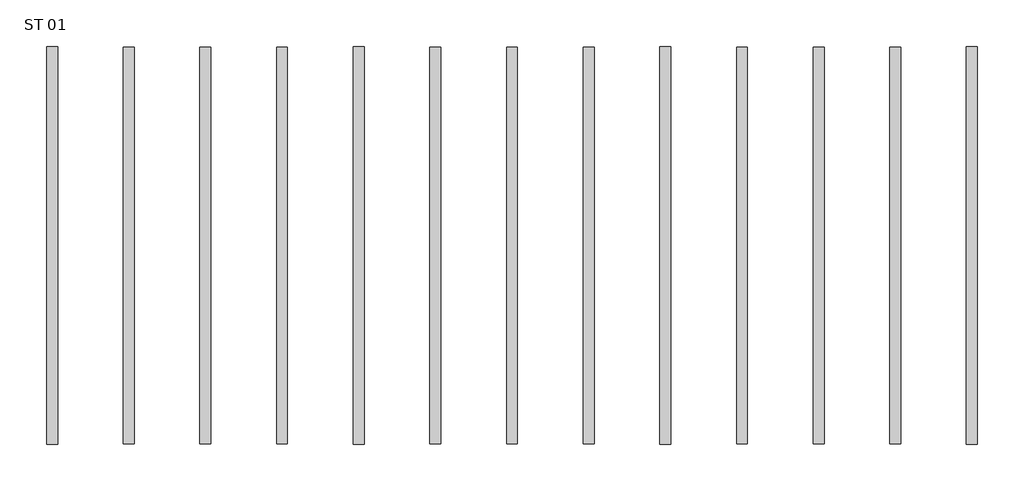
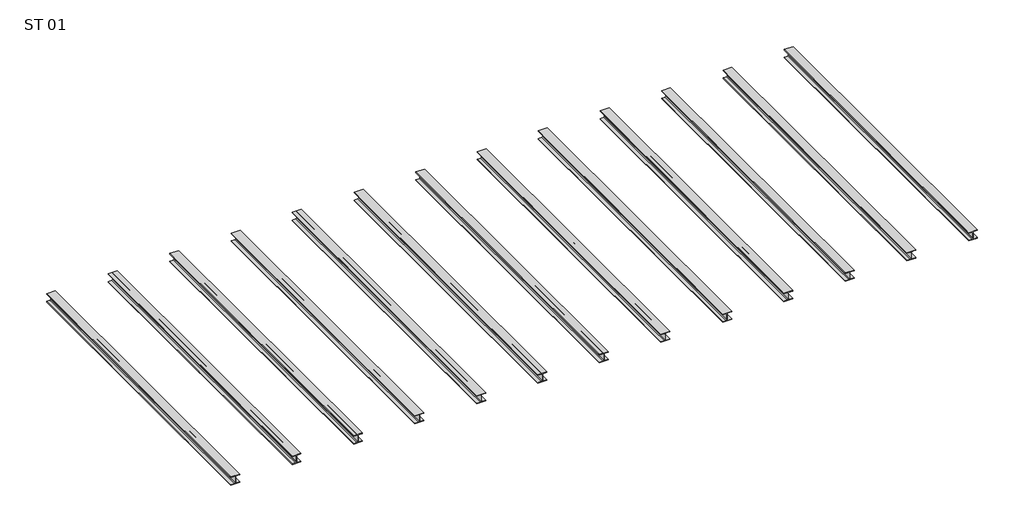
# One storey: 13 beams.
"""IFC4 building model written with IfcOpenShell, lengths in millimetres."""

from ifc_helpers import new_model, si_unit, origin, place, context, project, spatial, transform, mapped, element, save
from components import viga_heb_he240b_13f2b1aa, viga_heb_he240b_6fe5635d

model = new_model("IFC4")

# Units and contexts
model_context = context("Model", 3, world=origin())
ifc_project = project(units=[si_unit("LENGTHUNIT", "METRE", prefix="MILLI")], contexts=[model_context])

# Site, building, storey
site = spatial("IfcSite", under=ifc_project)
building = spatial("IfcBuilding", under=site)
storey = spatial("IfcBuildingStorey", under=building, Name="ST 01", Elevation=1355.0)

# Beams
placement = place(None, origin())
viga_heb_he240b_shape = viga_heb_he240b_13f2b1aa(model_context)
element("IfcBeam", 1, ObjectType="Viga HEB : HE240B", at=placement, inside=storey, context=model_context, shape_type="MappedRepresentation", body=[
    mapped(viga_heb_he240b_shape, transform((12614.134717, 877.1901934, 1235.0), x_axis=(0.0, -1.0, 0.0), y_axis=(1.0, 0.0, 0.0), z_axis=(0.0, 0.0, 1.0))),
])
element("IfcBeam", 2, ObjectType="Viga HEB : HE240B", at=placement, inside=storey, context=model_context, shape_type="MappedRepresentation", body=[
    mapped(viga_heb_he240b_shape, transform((5903.7525331, 877.1901934, 1235.0), x_axis=(0.0, -1.0, 0.0), y_axis=(1.0, 0.0, 0.0), z_axis=(0.0, 0.0, 1.0))),
])
element("IfcBeam", 3, ObjectType="Viga HEB : HE240B", at=placement, inside=storey, context=model_context, shape_type="MappedRepresentation", body=[
    mapped(viga_heb_he240b_shape, transform((-806.6296508, 877.1901934, 1235.0), x_axis=(0.0, -1.0, 0.0), y_axis=(1.0, 0.0, 0.0), z_axis=(0.0, 0.0, 1.0))),
])
element("IfcBeam", 4, ObjectType="Viga HEB : HE240B", at=placement, inside=storey, context=model_context, shape_type="MappedRepresentation", body=[
    mapped(viga_heb_he240b_shape, transform((-7517.0118347, 877.1901934, 1235.0), x_axis=(0.0, -1.0, 0.0), y_axis=(1.0, 0.0, 0.0), z_axis=(0.0, 0.0, 1.0))),
])
viga_heb_he240b_2_shape = viga_heb_he240b_6fe5635d(model_context)
element("IfcBeam", 5, ObjectType="Viga HEB : HE240B", at=placement, inside=storey, context=model_context, shape_type="MappedRepresentation", body=[
    mapped(viga_heb_he240b_2_shape, transform((10936.539171, 877.1901934, 1235.0), x_axis=(0.0, -1.0, 0.0), y_axis=(1.0, 0.0, 0.0), z_axis=(0.0, 0.0, 1.0))),
])
element("IfcBeam", 6, ObjectType="Viga HEB : HE240B", at=placement, inside=storey, context=model_context, shape_type="MappedRepresentation", body=[
    mapped(viga_heb_he240b_2_shape, transform((9258.943625, 877.1901934, 1235.0), x_axis=(0.0, -1.0, 0.0), y_axis=(1.0, 0.0, 0.0), z_axis=(0.0, 0.0, 1.0))),
])
element("IfcBeam", 7, ObjectType="Viga HEB : HE240B", at=placement, inside=storey, context=model_context, shape_type="MappedRepresentation", body=[
    mapped(viga_heb_he240b_2_shape, transform((7581.3480791, 877.1901934, 1235.0), x_axis=(0.0, -1.0, 0.0), y_axis=(1.0, 0.0, 0.0), z_axis=(0.0, 0.0, 1.0))),
])
element("IfcBeam", 8, ObjectType="Viga HEB : HE240B", at=placement, inside=storey, context=model_context, shape_type="MappedRepresentation", body=[
    mapped(viga_heb_he240b_2_shape, transform((4226.1569871, 877.1901934, 1235.0), x_axis=(0.0, -1.0, 0.0), y_axis=(1.0, 0.0, 0.0), z_axis=(0.0, 0.0, 1.0))),
])
element("IfcBeam", 9, ObjectType="Viga HEB : HE240B", at=placement, inside=storey, context=model_context, shape_type="MappedRepresentation", body=[
    mapped(viga_heb_he240b_2_shape, transform((2548.5614411, 877.1901934, 1235.0), x_axis=(0.0, -1.0, 0.0), y_axis=(1.0, 0.0, 0.0), z_axis=(0.0, 0.0, 1.0))),
])
element("IfcBeam", 10, ObjectType="Viga HEB : HE240B", at=placement, inside=storey, context=model_context, shape_type="MappedRepresentation", body=[
    mapped(viga_heb_he240b_2_shape, transform((870.9658952, 877.1901934, 1235.0), x_axis=(0.0, -1.0, 0.0), y_axis=(1.0, 0.0, 0.0), z_axis=(0.0, 0.0, 1.0))),
])
element("IfcBeam", 11, ObjectType="Viga HEB : HE240B", at=placement, inside=storey, context=model_context, shape_type="MappedRepresentation", body=[
    mapped(viga_heb_he240b_2_shape, transform((-2484.2251968, 877.1901934, 1235.0), x_axis=(0.0, -1.0, 0.0), y_axis=(1.0, 0.0, 0.0), z_axis=(0.0, 0.0, 1.0))),
])
element("IfcBeam", 12, ObjectType="Viga HEB : HE240B", at=placement, inside=storey, context=model_context, shape_type="MappedRepresentation", body=[
    mapped(viga_heb_he240b_2_shape, transform((-4161.8207428, 877.1901934, 1235.0), x_axis=(0.0, -1.0, 0.0), y_axis=(1.0, 0.0, 0.0), z_axis=(0.0, 0.0, 1.0))),
])
element("IfcBeam", 13, ObjectType="Viga HEB : HE240B", at=placement, inside=storey, context=model_context, shape_type="MappedRepresentation", body=[
    mapped(viga_heb_he240b_2_shape, transform((-5839.4162888, 877.1901934, 1235.0), x_axis=(0.0, -1.0, 0.0), y_axis=(1.0, 0.0, 0.0), z_axis=(0.0, 0.0, 1.0))),
])

save(model, "model.ifc")
